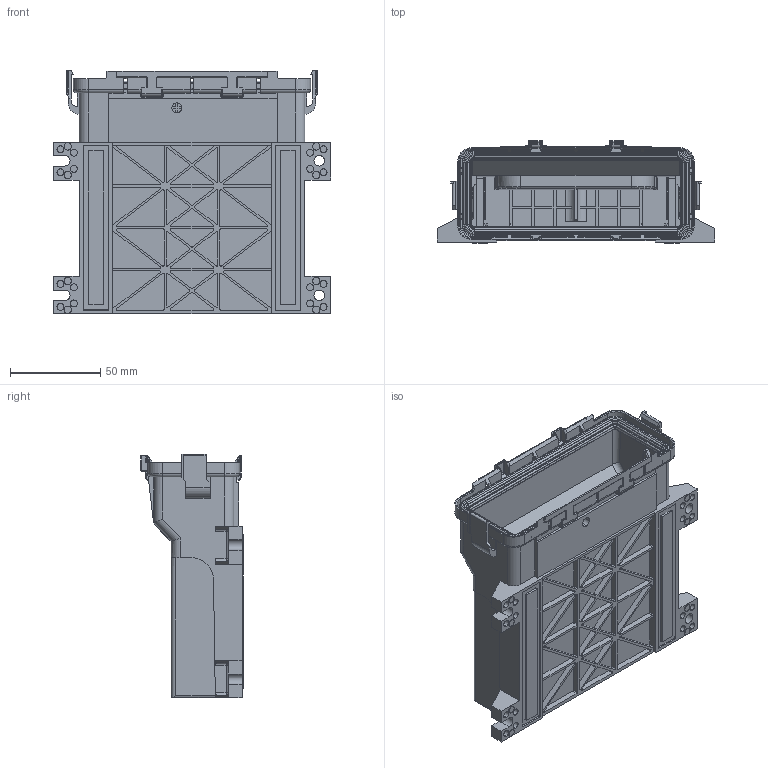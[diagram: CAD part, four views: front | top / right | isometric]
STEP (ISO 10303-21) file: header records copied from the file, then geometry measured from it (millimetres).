
FILE_DESCRIPTION((''),'2;1');
FILE_NAME('5810130057_ASM','2008-07-08T',('eake'),(''),'PRO/ENGINEER BY PARAMETRIC TECHNOLOGY CORPORATION, 2005451','PRO/ENGINEER BY PARAMETRIC TECHNOLOGY CORPORATION, 2005451','');
FILE_SCHEMA(('CONFIG_CONTROL_DESIGN'));
Length unit declared in the file: inch
Products named in the file (6): 4828770193; 463089918X_SEAL30; 4630899190_HSINK_EX; 5810130041_EPOXY; 4639901015; 5810130057_ASM
Assembly tree (7 placements, depth 2):
  5810130057_ASM
    4828770193
    463089918X_SEAL30
    4630899190_HSINK_EX  x2
    5810130041_EPOXY  x2
    4639901015
Bounding box: 153.16 x 56.52 x 134.62 mm (x, y, z)
Volume: 179488.4 mm3; surface area: 149088.4 mm2
Topology: 7 solids, 7 shells, 2172 faces, 5362 edges, 3296 vertices
Faces by surface type: plane 956, cylinder 803, torus 182, bspline 72, extrusion 72, sphere 67, cone 20
Entity records: 72860 total; most frequent: CARTESIAN_POINT 22288, DIRECTION 10549, ORIENTED_EDGE 10496, EDGE_CURVE 5248, AXIS2_PLACEMENT_3D 3655, VECTOR 3239, VERTEX_POINT 3220, LINE 3167
